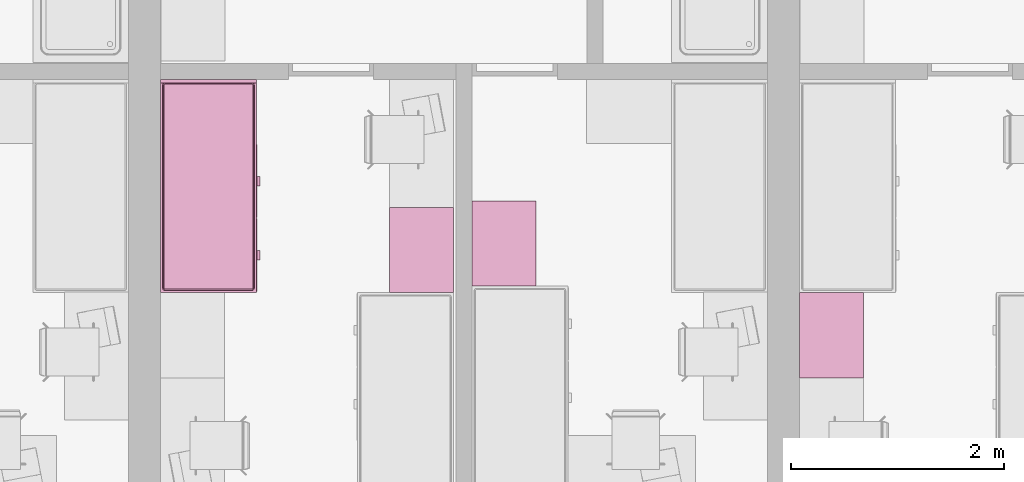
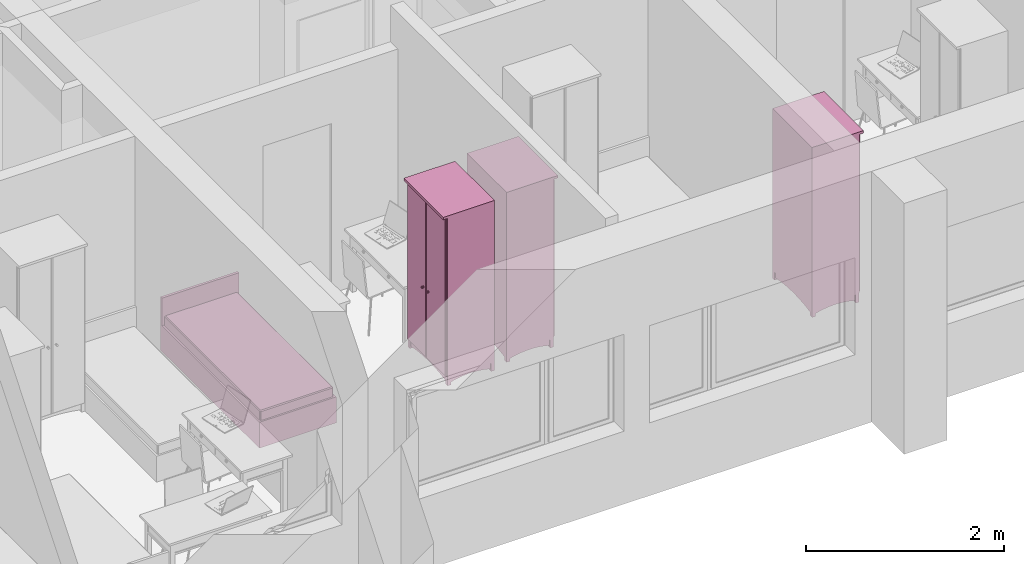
# One storey, part 106 of 172: 4 furnishings.
"""IFC2X3 building model written with IfcOpenShell, lengths in millimetres."""

from ifc_helpers import new_model, entity, si_unit, converted_unit, money_unit, direction, frame, origin_with_axes, place, context, subcontext, project, spatial, faceted_brep, source, transform, mapped, material, material_list, type_object, element, save


model = new_model("IFC2X3")

# Units and contexts
model_context = context("Model", 3, precision=1e-05, world=origin_with_axes(), true_north=direction((0.0, 1.0)))
body_context = subcontext(model_context, "Body", "Model", "MODEL_VIEW")
ifc_project = project(units=[si_unit("LENGTHUNIT", "METRE", prefix="MILLI"), si_unit("AREAUNIT", "SQUARE_METRE"), si_unit("VOLUMEUNIT", "CUBIC_METRE"), converted_unit("PLANEANGLEUNIT", "DEGREE", entity("IfcPlaneAngleMeasure", 0.0174532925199), si_unit("PLANEANGLEUNIT", "RADIAN"), dimensions=[0, 0, 0, 0, 0, 0, 0]), si_unit("SOLIDANGLEUNIT", "STERADIAN"), money_unit("USD"), converted_unit("TIMEUNIT", "Year", entity("IfcTimeMeasure", 31556926.0), si_unit("TIMEUNIT", "SECOND"), dimensions=[0, 0, 0, 0, 0, 0, 0]), si_unit("MASSUNIT", "GRAM"), si_unit("THERMODYNAMICTEMPERATUREUNIT", "DEGREE_CELSIUS"), si_unit("LUMINOUSINTENSITYUNIT", "LUMEN")], contexts=[model_context])

# Site, building, storey
site_placement = place(None, origin_with_axes())
site = spatial("IfcSite", under=ifc_project, at=site_placement, Name="Site", CompositionType="ELEMENT")
building_placement = place(site_placement, origin_with_axes())
building = spatial("IfcBuilding", under=site, at=building_placement, Name="Building", CompositionType="ELEMENT")
storey_placement = place(building_placement, frame((0.0, 0.0, 3200.0), z_axis=(0.0, 0.0, 1.0), x_axis=(1.0, 0.0, 0.0)))
storey = spatial("IfcBuildingStorey", under=building, at=storey_placement, Name="3KORRUS", CompositionType="ELEMENT", Elevation=3200.0)

# Furnishings
ifc_material = material(Name="Background")
ifc_material_list = material_list([ifc_material])
furnishing_element_type_1 = type_object("IfcFurnishingElementType", Name="Bed 19")
shared_shape_1 = source(origin_with_axes(), body_context, "Body", "Brep", [
    faceted_brep([(900.0, 1970.0, 0.0), (0.0, 1970.0, 0.0), (0.0, 2000.0, 0.0), (900.0, 2000.0, 0.0), (900.0, 1970.0, 660.0), (0.0, 1970.0, 660.0), (0.0, 2000.0, 660.0), (900.0, 2000.0, 660.0)], [[[0, 1, 2, 3]], [[1, 0, 4, 5]], [[2, 1, 5, 6]], [[3, 2, 6, 7]], [[0, 3, 7, 4]], [[5, 4, 7, 6]]]),
    faceted_brep([(900.0, 0.0, 0.0), (0.0, 0.0, 0.0), (0.0, 1970.0, 0.0), (900.0, 1970.0, 0.0), (900.0, 0.0, 320.0), (0.0, 0.0, 320.0), (0.0, 1970.0, 320.0), (900.0, 1970.0, 320.0)], [[[0, 1, 2, 3]], [[1, 0, 4, 5]], [[2, 1, 5, 6]], [[3, 2, 6, 7]], [[0, 3, 7, 4]], [[5, 4, 7, 6]]]),
    faceted_brep([(905.0, 10.0, 30.0), (900.0, 10.0, 30.0), (900.0, 695.0, 30.0), (905.0, 695.0, 30.0), (905.0, 10.0, 290.0), (900.0, 10.0, 290.0), (900.0, 695.0, 290.0), (905.0, 695.0, 290.0)], [[[0, 1, 2, 3]], [[1, 0, 4, 5]], [[2, 1, 5, 6]], [[3, 2, 6, 7]], [[0, 3, 7, 4]], [[5, 4, 7, 6]]]),
    faceted_brep([(935.0, 307.5, 150.0), (905.0, 307.5, 150.0), (905.0, 397.5, 150.0), (935.0, 397.5, 150.0), (935.0, 307.5, 170.0), (905.0, 307.5, 170.0), (905.0, 397.5, 170.0), (935.0, 397.5, 170.0)], [[[0, 1, 2, 3]], [[1, 0, 4, 5]], [[2, 1, 5, 6]], [[3, 2, 6, 7]], [[0, 3, 7, 4]], [[5, 4, 7, 6]]]),
    faceted_brep([(905.0, 705.0, 30.0), (900.0, 705.0, 30.0), (900.0, 1390.0, 30.0), (905.0, 1390.0, 30.0), (905.0, 705.0, 290.0), (900.0, 705.0, 290.0), (900.0, 1390.0, 290.0), (905.0, 1390.0, 290.0)], [[[0, 1, 2, 3]], [[1, 0, 4, 5]], [[2, 1, 5, 6]], [[3, 2, 6, 7]], [[0, 3, 7, 4]], [[5, 4, 7, 6]]]),
    faceted_brep([(935.0, 1002.5, 150.0), (905.0, 1002.5, 150.0), (905.0, 1092.5, 150.0), (935.0, 1092.5, 150.0), (935.0, 1002.5, 170.0), (905.0, 1002.5, 170.0), (905.0, 1092.5, 170.0), (935.0, 1092.5, 170.0)], [[[0, 1, 2, 3]], [[1, 0, 4, 5]], [[2, 1, 5, 6]], [[3, 2, 6, 7]], [[0, 3, 7, 4]], [[5, 4, 7, 6]]]),
    faceted_brep([(20.0, 40.0, 350.0), (20.0, 1950.0, 350.0), (21.522, 1957.654, 350.0), (25.858, 1964.142, 350.0), (32.346, 1968.478, 350.0), (40.0, 1970.0, 350.0), (860.0, 1970.0, 350.0), (867.654, 1968.478, 350.0), (874.142, 1964.142, 350.0), (878.478, 1957.654, 350.0), (880.0, 1950.0, 350.0), (880.0, 40.0, 350.0), (878.478, 32.346, 350.0), (874.142, 25.858, 350.0), (867.654, 21.522, 350.0), (860.0, 20.0, 350.0), (40.0, 20.0, 350.0), (32.346, 21.522, 350.0), (25.858, 25.858, 350.0), (21.522, 32.346, 350.0), (20.0, 40.0, 420.0), (20.0, 1950.0, 420.0), (21.522, 1957.654, 420.0), (25.858, 1964.142, 420.0), (32.346, 1968.478, 420.0), (40.0, 1970.0, 420.0), (860.0, 1970.0, 420.0), (867.654, 1968.478, 420.0), (874.142, 1964.142, 420.0), (878.478, 1957.654, 420.0), (880.0, 1950.0, 420.0), (880.0, 40.0, 420.0), (878.478, 32.346, 420.0), (874.142, 25.858, 420.0), (867.654, 21.522, 420.0), (860.0, 20.0, 420.0), (40.0, 20.0, 420.0), (32.346, 21.522, 420.0), (25.858, 25.858, 420.0), (21.522, 32.346, 420.0), (21.522, 40.15, 427.654), (21.522, 1949.85, 427.654), (22.956, 1957.06, 427.654), (26.955, 1963.045, 427.654), (32.94, 1967.044, 427.654), (40.15, 1968.478, 427.654), (859.85, 1968.478, 427.654), (867.06, 1967.044, 427.654), (873.045, 1963.045, 427.654), (877.044, 1957.06, 427.654), (878.478, 1949.85, 427.654), (878.478, 40.15, 427.654), (877.044, 32.94, 427.654), (873.045, 26.955, 427.654), (867.06, 22.956, 427.654), (859.85, 21.522, 427.654), (40.15, 21.522, 427.654), (32.94, 22.956, 427.654), (26.955, 26.955, 427.654), (22.956, 32.94, 427.654), (32.346, 41.216, 438.478), (32.346, 1948.784, 438.478), (33.152, 1952.836, 438.478), (34.759, 1955.241, 438.478), (37.164, 1956.848, 438.478), (41.216, 1957.654, 438.478), (858.784, 1957.654, 438.478), (862.836, 1956.848, 438.478), (865.241, 1955.241, 438.478), (866.848, 1952.836, 438.478), (867.654, 1948.784, 438.478), (867.654, 41.216, 438.478), (866.848, 37.164, 438.478), (865.241, 34.759, 438.478), (862.836, 33.152, 438.478), (858.784, 32.346, 438.478), (41.216, 32.346, 438.478), (37.164, 33.152, 438.478), (34.759, 34.759, 438.478), (33.152, 37.164, 438.478), (40.0, 41.97, 440.0), (40.0, 1948.03, 440.0), (40.327, 1949.673, 440.0), (40.0, 1950.0, 439.924), (41.97, 1950.0, 440.0), (858.03, 1950.0, 440.0), (859.673, 1949.673, 440.0), (860.0, 1950.0, 439.924), (860.0, 1948.03, 440.0), (860.0, 41.97, 440.0), (859.673, 40.327, 440.0), (860.0, 40.0, 439.924), (858.03, 40.0, 440.0), (41.97, 40.0, 440.0), (40.327, 40.327, 440.0), (40.0, 40.0, 439.924)], [[[0, 1, 2, 3, 4, 5, 6, 7, 8, 9, 10, 11, 12, 13, 14, 15, 16, 17, 18, 19]], [[1, 0, 20, 21]], [[2, 1, 21, 22]], [[3, 2, 22, 23]], [[4, 3, 23, 24]], [[5, 4, 24, 25]], [[6, 5, 25, 26]], [[7, 6, 26, 27]], [[8, 7, 27, 28]], [[9, 8, 28, 29]], [[10, 9, 29, 30]], [[11, 10, 30, 31]], [[12, 11, 31, 32]], [[13, 12, 32, 33]], [[14, 13, 33, 34]], [[15, 14, 34, 35]], [[16, 15, 35, 36]], [[17, 16, 36, 37]], [[18, 17, 37, 38]], [[19, 18, 38, 39]], [[0, 19, 39, 20]], [[21, 20, 40, 41]], [[22, 21, 41, 42]], [[23, 22, 42, 43]], [[24, 23, 43, 44]], [[25, 24, 44, 45]], [[26, 25, 45, 46]], [[27, 26, 46, 47]], [[28, 27, 47, 48]], [[29, 28, 48, 49]], [[30, 29, 49, 50]], [[31, 30, 50, 51]], [[32, 31, 51, 52]], [[33, 32, 52, 53]], [[34, 33, 53, 54]], [[35, 34, 54, 55]], [[36, 35, 55, 56]], [[37, 36, 56, 57]], [[38, 37, 57, 58]], [[39, 38, 58, 59]], [[20, 39, 59, 40]], [[41, 40, 60, 61]], [[42, 41, 61, 62]], [[43, 42, 62, 63]], [[44, 43, 63, 64]], [[45, 44, 64, 65]], [[46, 45, 65, 66]], [[47, 46, 66, 67]], [[48, 47, 67, 68]], [[49, 48, 68, 69]], [[50, 49, 69, 70]], [[51, 50, 70, 71]], [[52, 51, 71, 72]], [[53, 52, 72, 73]], [[54, 53, 73, 74]], [[55, 54, 74, 75]], [[56, 55, 75, 76]], [[57, 56, 76, 77]], [[58, 57, 77, 78]], [[59, 58, 78, 79]], [[40, 59, 79, 60]], [[61, 60, 80, 81]], [[62, 61, 81, 82, 83]], [[63, 62, 83]], [[64, 63, 83]], [[65, 64, 83, 82, 84]], [[66, 65, 84, 85]], [[67, 66, 85, 86, 87]], [[68, 67, 87]], [[69, 68, 87]], [[70, 69, 87, 86, 88]], [[71, 70, 88, 89]], [[72, 71, 89, 90, 91]], [[73, 72, 91]], [[74, 73, 91]], [[75, 74, 91, 90, 92]], [[76, 75, 92, 93]], [[77, 76, 93, 94, 95]], [[78, 77, 95]], [[79, 78, 95]], [[60, 79, 95, 94, 80]], [[81, 80, 94, 93, 92, 90, 89, 88, 86, 85, 84, 82]]]),
    faceted_brep([(20.0, 40.0, 350.0), (21.522, 32.346, 350.0), (25.858, 25.858, 350.0), (32.346, 21.522, 350.0), (40.0, 20.0, 350.0), (860.0, 20.0, 350.0), (867.654, 21.522, 350.0), (874.142, 25.858, 350.0), (878.478, 32.346, 350.0), (880.0, 40.0, 350.0), (880.0, 1950.0, 350.0), (878.478, 1957.654, 350.0), (874.142, 1964.142, 350.0), (867.654, 1968.478, 350.0), (860.0, 1970.0, 350.0), (40.0, 1970.0, 350.0), (32.346, 1968.478, 350.0), (25.858, 1964.142, 350.0), (21.522, 1957.654, 350.0), (20.0, 1950.0, 350.0), (20.0, 40.0, 320.0), (21.522, 32.346, 320.0), (25.858, 25.858, 320.0), (32.346, 21.522, 320.0), (40.0, 20.0, 320.0), (860.0, 20.0, 320.0), (867.654, 21.522, 320.0), (874.142, 25.858, 320.0), (878.478, 32.346, 320.0), (880.0, 40.0, 320.0), (880.0, 1950.0, 320.0), (878.478, 1957.654, 320.0), (874.142, 1964.142, 320.0), (867.654, 1968.478, 320.0), (860.0, 1970.0, 320.0), (40.0, 1970.0, 320.0), (32.346, 1968.478, 320.0), (25.858, 1964.142, 320.0), (21.522, 1957.654, 320.0), (20.0, 1950.0, 320.0)], [[[0, 1, 2, 3, 4, 5, 6, 7, 8, 9, 10, 11, 12, 13, 14, 15, 16, 17, 18, 19]], [[0, 20, 21, 1]], [[1, 21, 22, 2]], [[2, 22, 23, 3]], [[3, 23, 24, 4]], [[4, 24, 25, 5]], [[5, 25, 26, 6]], [[6, 26, 27, 7]], [[7, 27, 28, 8]], [[8, 28, 29, 9]], [[9, 29, 30, 10]], [[10, 30, 31, 11]], [[11, 31, 32, 12]], [[12, 32, 33, 13]], [[13, 33, 34, 14]], [[14, 34, 35, 15]], [[15, 35, 36, 16]], [[16, 36, 37, 17]], [[17, 37, 38, 18]], [[18, 38, 39, 19]], [[19, 39, 20, 0]], [[20, 39, 38, 37, 36, 35, 34, 33, 32, 31, 30, 29, 28, 27, 26, 25, 24, 23, 22, 21]]]),
])
furnishing_placement = place(storey_placement, frame((-29990.2967033, -17439.2398994, 0.0), z_axis=(0.0, 0.0, 1.0), x_axis=(1.0, 0.0, 0.0)))
element("IfcFurnishingElement", 1, at=furnishing_placement, inside=storey, type_object=furnishing_element_type_1, material=ifc_material_list, Name="FU - 013", context=body_context, shape_type="MappedRepresentation", body=[
    mapped(shared_shape_1, transform((0.0, 0.0, 0.0))),
])
furnishing_element_type_2 = type_object("IfcFurnishingElementType", Name="Cupboard 19")
shared_shape_2 = source(origin_with_axes(), body_context, "Body", "Brep", [
    faceted_brep([(780.0, 600.0, 120.0), (780.0, 600.0, 2050.0), (780.0, 580.0, 2050.0), (780.0, 580.0, 120.0), (20.0, 600.0, 120.0), (20.0, 600.0, 2050.0), (20.0, 580.0, 2050.0), (20.0, 580.0, 120.0)], [[[0, 1, 2, 3]], [[4, 5, 1, 0]], [[1, 5, 6, 2]], [[3, 2, 6, 7]], [[0, 3, 7, 4]], [[7, 6, 5, 4]]]),
    faceted_brep([(0.0, 50.0, 100.0), (0.0, 600.0, 100.0), (20.0, 600.0, 100.0), (20.0, 50.0, 100.0), (0.0, 50.0, 2070.0), (0.0, 600.0, 2070.0), (20.0, 600.0, 2070.0), (20.0, 50.0, 2070.0)], [[[0, 1, 2, 3]], [[0, 4, 5, 1]], [[1, 5, 6, 2]], [[2, 6, 7, 3]], [[3, 7, 4, 0]], [[7, 6, 5, 4]]]),
    faceted_brep([(780.0, 50.0, 100.0), (780.0, 600.0, 100.0), (800.0, 600.0, 100.0), (800.0, 50.0, 100.0), (780.0, 50.0, 2070.0), (780.0, 600.0, 2070.0), (800.0, 600.0, 2070.0), (800.0, 50.0, 2070.0)], [[[0, 1, 2, 3]], [[0, 4, 5, 1]], [[1, 5, 6, 2]], [[2, 6, 7, 3]], [[3, 7, 4, 0]], [[7, 6, 5, 4]]]),
    faceted_brep([(20.0, 50.0, 100.0), (20.0, 600.0, 100.0), (780.0, 600.0, 100.0), (780.0, 50.0, 100.0), (20.0, 50.0, 120.0), (20.0, 600.0, 120.0), (780.0, 600.0, 120.0), (780.0, 50.0, 120.0)], [[[0, 1, 2, 3]], [[0, 4, 5, 1]], [[1, 5, 6, 2]], [[2, 6, 7, 3]], [[3, 7, 4, 0]], [[7, 6, 5, 4]]]),
    faceted_brep([(20.0, 50.0, 2050.0), (20.0, 600.0, 2050.0), (780.0, 600.0, 2050.0), (780.0, 50.0, 2050.0), (20.0, 50.0, 2070.0), (20.0, 600.0, 2070.0), (780.0, 600.0, 2070.0), (780.0, 50.0, 2070.0)], [[[0, 1, 2, 3]], [[0, 4, 5, 1]], [[1, 5, 6, 2]], [[2, 6, 7, 3]], [[3, 7, 4, 0]], [[7, 6, 5, 4]]]),
    faceted_brep([(0.0, 600.0, 2070.0), (0.0, 0.0, 2070.0), (0.0, 0.0, 2100.0), (0.0, 600.0, 2100.0), (800.0, 600.0, 2070.0), (800.0, 0.0, 2070.0), (800.0, 0.0, 2100.0), (800.0, 600.0, 2100.0)], [[[0, 1, 2, 3]], [[0, 4, 5, 1]], [[1, 5, 6, 2]], [[3, 2, 6, 7]], [[4, 0, 3, 7]], [[5, 4, 7, 6]]]),
    faceted_brep([(760.0, 590.0, 25.0), (760.0, 570.0, 25.0), (640.962, 570.0, 45.8), (640.962, 590.0, 45.8), (760.0, 590.0, 100.0), (760.0, 570.0, 100.0), (40.0, 570.0, 100.0), (40.0, 570.0, 25.0), (159.038, 570.0, 45.8), (279.23, 570.0, 58.32), (400.0, 570.0, 62.5), (520.77, 570.0, 58.32), (520.77, 590.0, 58.32), (400.0, 590.0, 62.5), (279.23, 590.0, 58.32), (159.038, 590.0, 45.8), (40.0, 590.0, 25.0), (40.0, 590.0, 100.0)], [[[0, 1, 2, 3]], [[4, 5, 1, 0]], [[1, 5, 6, 7, 8, 9, 10, 11, 2]], [[3, 2, 11, 12]], [[0, 3, 12, 13, 14, 15, 16, 17, 4]], [[17, 6, 5, 4]], [[16, 7, 6, 17]], [[15, 8, 7, 16]], [[14, 9, 8, 15]], [[13, 10, 9, 14]], [[12, 11, 10, 13]]]),
    faceted_brep([(760.0, 80.0, 25.0), (760.0, 60.0, 25.0), (640.962, 60.0, 45.8), (640.962, 80.0, 45.8), (760.0, 80.0, 100.0), (760.0, 60.0, 100.0), (40.0, 60.0, 100.0), (40.0, 60.0, 25.0), (159.038, 60.0, 45.8), (279.23, 60.0, 58.32), (400.0, 60.0, 62.5), (520.77, 60.0, 58.32), (520.77, 80.0, 58.32), (400.0, 80.0, 62.5), (279.23, 80.0, 58.32), (159.038, 80.0, 45.8), (40.0, 80.0, 25.0), (40.0, 80.0, 100.0)], [[[0, 1, 2, 3]], [[4, 5, 1, 0]], [[1, 5, 6, 7, 8, 9, 10, 11, 2]], [[3, 2, 11, 12]], [[0, 3, 12, 13, 14, 15, 16, 17, 4]], [[17, 6, 5, 4]], [[16, 7, 6, 17]], [[15, 8, 7, 16]], [[14, 9, 8, 15]], [[13, 10, 9, 14]], [[12, 11, 10, 13]]]),
    faceted_brep([(790.0, 90.0, 25.0), (770.0, 90.0, 25.0), (770.0, 141.266, 38.072), (790.0, 141.266, 38.072), (790.0, 90.0, 100.0), (770.0, 90.0, 100.0), (770.0, 560.0, 100.0), (770.0, 560.0, 25.0), (770.0, 508.734, 38.072), (770.0, 456.752, 47.92), (770.0, 404.257, 54.508), (770.0, 351.453, 57.808), (770.0, 298.547, 57.808), (770.0, 245.743, 54.508), (770.0, 193.248, 47.92), (790.0, 193.248, 47.92), (790.0, 245.743, 54.508), (790.0, 298.547, 57.808), (790.0, 351.453, 57.808), (790.0, 404.257, 54.508), (790.0, 456.752, 47.92), (790.0, 508.734, 38.072), (790.0, 560.0, 25.0), (790.0, 560.0, 100.0)], [[[0, 1, 2, 3]], [[4, 5, 1, 0]], [[1, 5, 6, 7, 8, 9, 10, 11, 12, 13, 14, 2]], [[3, 2, 14, 15]], [[0, 3, 15, 16, 17, 18, 19, 20, 21, 22, 23, 4]], [[23, 6, 5, 4]], [[22, 7, 6, 23]], [[21, 8, 7, 22]], [[20, 9, 8, 21]], [[19, 10, 9, 20]], [[18, 11, 10, 19]], [[17, 12, 11, 18]], [[16, 13, 12, 17]], [[15, 14, 13, 16]]]),
    faceted_brep([(30.0, 90.0, 25.0), (10.0, 90.0, 25.0), (10.0, 141.266, 38.072), (30.0, 141.266, 38.072), (30.0, 90.0, 100.0), (10.0, 90.0, 100.0), (10.0, 560.0, 100.0), (10.0, 560.0, 25.0), (10.0, 508.734, 38.072), (10.0, 456.752, 47.92), (10.0, 404.257, 54.508), (10.0, 351.453, 57.808), (10.0, 298.547, 57.808), (10.0, 245.743, 54.508), (10.0, 193.248, 47.92), (30.0, 193.248, 47.92), (30.0, 245.743, 54.508), (30.0, 298.547, 57.808), (30.0, 351.453, 57.808), (30.0, 404.257, 54.508), (30.0, 456.752, 47.92), (30.0, 508.734, 38.072), (30.0, 560.0, 25.0), (30.0, 560.0, 100.0)], [[[0, 1, 2, 3]], [[4, 5, 1, 0]], [[1, 5, 6, 7, 8, 9, 10, 11, 12, 13, 14, 2]], [[3, 2, 14, 15]], [[0, 3, 15, 16, 17, 18, 19, 20, 21, 22, 23, 4]], [[23, 6, 5, 4]], [[22, 7, 6, 23]], [[21, 8, 7, 22]], [[20, 9, 8, 21]], [[19, 10, 9, 20]], [[18, 11, 10, 19]], [[17, 12, 11, 18]], [[16, 13, 12, 17]], [[15, 14, 13, 16]]]),
    faceted_brep([(760.0, 560.0, 0.0), (760.0, 560.0, 100.0), (760.0, 600.0, 100.0), (760.0, 600.0, 0.0), (800.0, 560.0, 0.0), (800.0, 560.0, 100.0), (800.0, 600.0, 100.0), (800.0, 600.0, 0.0)], [[[0, 1, 2, 3]], [[4, 5, 1, 0]], [[1, 5, 6, 2]], [[3, 2, 6, 7]], [[0, 3, 7, 4]], [[7, 6, 5, 4]]]),
    faceted_brep([(0.0, 560.0, 0.0), (0.0, 560.0, 100.0), (0.0, 600.0, 100.0), (0.0, 600.0, 0.0), (40.0, 560.0, 0.0), (40.0, 560.0, 100.0), (40.0, 600.0, 100.0), (40.0, 600.0, 0.0)], [[[0, 1, 2, 3]], [[4, 5, 1, 0]], [[1, 5, 6, 2]], [[3, 2, 6, 7]], [[0, 3, 7, 4]], [[7, 6, 5, 4]]]),
    faceted_brep([(760.0, 50.0, 0.0), (760.0, 50.0, 100.0), (760.0, 90.0, 100.0), (760.0, 90.0, 0.0), (800.0, 50.0, 0.0), (800.0, 50.0, 100.0), (800.0, 90.0, 100.0), (800.0, 90.0, 0.0)], [[[0, 1, 2, 3]], [[4, 5, 1, 0]], [[1, 5, 6, 2]], [[3, 2, 6, 7]], [[0, 3, 7, 4]], [[7, 6, 5, 4]]]),
    faceted_brep([(0.0, 50.0, 0.0), (0.0, 50.0, 100.0), (0.0, 90.0, 100.0), (0.0, 90.0, 0.0), (40.0, 50.0, 0.0), (40.0, 50.0, 100.0), (40.0, 90.0, 100.0), (40.0, 90.0, 0.0)], [[[0, 1, 2, 3]], [[4, 5, 1, 0]], [[1, 5, 6, 2]], [[3, 2, 6, 7]], [[0, 3, 7, 4]], [[7, 6, 5, 4]]]),
    faceted_brep([(780.0, 580.0, 587.5), (780.0, 580.0, 607.5), (780.0, 50.0, 607.5), (780.0, 50.0, 587.5), (20.0, 580.0, 587.5), (20.0, 580.0, 607.5), (20.0, 50.0, 607.5), (20.0, 50.0, 587.5)], [[[0, 1, 2, 3]], [[4, 5, 1, 0]], [[1, 5, 6, 2]], [[3, 2, 6, 7]], [[0, 3, 7, 4]], [[7, 6, 5, 4]]]),
    faceted_brep([(780.0, 580.0, 1075.0), (780.0, 580.0, 1095.0), (780.0, 50.0, 1095.0), (780.0, 50.0, 1075.0), (20.0, 580.0, 1075.0), (20.0, 580.0, 1095.0), (20.0, 50.0, 1095.0), (20.0, 50.0, 1075.0)], [[[0, 1, 2, 3]], [[4, 5, 1, 0]], [[1, 5, 6, 2]], [[3, 2, 6, 7]], [[0, 3, 7, 4]], [[7, 6, 5, 4]]]),
    faceted_brep([(780.0, 580.0, 1562.5), (780.0, 580.0, 1582.5), (780.0, 50.0, 1582.5), (780.0, 50.0, 1562.5), (20.0, 580.0, 1562.5), (20.0, 580.0, 1582.5), (20.0, 50.0, 1582.5), (20.0, 50.0, 1562.5)], [[[0, 1, 2, 3]], [[4, 5, 1, 0]], [[1, 5, 6, 2]], [[3, 2, 6, 7]], [[0, 3, 7, 4]], [[7, 6, 5, 4]]]),
    faceted_brep([(789.5, 50.0, 110.5), (400.5, 50.0, 110.5), (400.5, 50.0, 2059.5), (789.5, 50.0, 2059.5), (789.5, 40.0, 110.5), (400.5, 40.0, 110.5), (400.5, 40.0, 2059.5), (789.5, 40.0, 2059.5), (779.5, 30.0, 120.5), (410.5, 30.0, 120.5), (410.5, 30.0, 2049.5), (779.5, 30.0, 2049.5)], [[[0, 1, 2, 3]], [[0, 4, 5, 1]], [[1, 5, 6, 2]], [[2, 6, 7, 3]], [[3, 7, 4, 0]], [[4, 8, 9, 5]], [[5, 9, 10, 6]], [[6, 10, 11, 7]], [[7, 11, 8, 4]], [[10, 9, 8, 11]]]),
    faceted_brep([(399.5, 50.0, 110.5), (10.5, 50.0, 110.5), (10.5, 50.0, 2059.5), (399.5, 50.0, 2059.5), (399.5, 40.0, 110.5), (10.5, 40.0, 110.5), (10.5, 40.0, 2059.5), (399.5, 40.0, 2059.5), (389.5, 30.0, 120.5), (20.5, 30.0, 120.5), (20.5, 30.0, 2049.5), (389.5, 30.0, 2049.5)], [[[0, 1, 2, 3]], [[0, 4, 5, 1]], [[1, 5, 6, 2]], [[2, 6, 7, 3]], [[3, 7, 4, 0]], [[4, 8, 9, 5]], [[5, 9, 10, 6]], [[6, 10, 11, 7]], [[7, 11, 8, 4]], [[10, 9, 8, 11]]]),
    faceted_brep([(339.608, 30.0, 954.0), (338.0, 30.0, 960.0), (339.608, 30.0, 966.0), (344.0, 30.0, 970.392), (350.0, 30.0, 972.0), (356.0, 30.0, 970.392), (360.392, 30.0, 966.0), (362.0, 30.0, 960.0), (360.392, 30.0, 954.0), (356.0, 30.0, 949.608), (350.0, 30.0, 948.0), (344.0, 30.0, 949.608), (339.608, 5.0, 954.0), (338.0, 5.0, 960.0), (339.608, 5.0, 966.0), (344.0, 5.0, 970.392), (350.0, 5.0, 972.0), (356.0, 5.0, 970.392), (360.392, 5.0, 966.0), (362.0, 5.0, 960.0), (360.392, 5.0, 954.0), (356.0, 5.0, 949.608), (350.0, 5.0, 948.0), (344.0, 5.0, 949.608)], [[[0, 1, 2, 3, 4, 5, 6, 7, 8, 9, 10, 11]], [[0, 12, 13, 1]], [[1, 13, 14, 2]], [[2, 14, 15, 3]], [[3, 15, 16, 4]], [[4, 16, 17, 5]], [[5, 17, 18, 6]], [[6, 18, 19, 7]], [[7, 19, 20, 8]], [[8, 20, 21, 9]], [[9, 21, 22, 10]], [[10, 22, 23, 11]], [[11, 23, 12, 0]], [[12, 23, 22, 21, 20, 19, 18, 17, 16, 15, 14, 13]]]),
    faceted_brep([(460.392, 30.0, 954.0), (456.0, 30.0, 949.608), (450.0, 30.0, 948.0), (444.0, 30.0, 949.608), (439.608, 30.0, 954.0), (438.0, 30.0, 960.0), (439.608, 30.0, 966.0), (444.0, 30.0, 970.392), (450.0, 30.0, 972.0), (456.0, 30.0, 970.392), (460.392, 30.0, 966.0), (462.0, 30.0, 960.0), (460.392, 5.0, 954.0), (456.0, 5.0, 949.608), (450.0, 5.0, 948.0), (444.0, 5.0, 949.608), (439.608, 5.0, 954.0), (438.0, 5.0, 960.0), (439.608, 5.0, 966.0), (444.0, 5.0, 970.392), (450.0, 5.0, 972.0), (456.0, 5.0, 970.392), (460.392, 5.0, 966.0), (462.0, 5.0, 960.0)], [[[0, 1, 2, 3, 4, 5, 6, 7, 8, 9, 10, 11]], [[1, 0, 12, 13]], [[2, 1, 13, 14]], [[3, 2, 14, 15]], [[4, 3, 15, 16]], [[5, 4, 16, 17]], [[6, 5, 17, 18]], [[7, 6, 18, 19]], [[8, 7, 19, 20]], [[9, 8, 20, 21]], [[10, 9, 21, 22]], [[11, 10, 22, 23]], [[0, 11, 23, 12]], [[12, 23, 22, 21, 20, 19, 18, 17, 16, 15, 14, 13]]]),
])
for number, where, z_axis, x_axis, name in (
    (2, (-26465.2967033, -17379.2398994, 0.0), (0.0, 0.0, 1.0), (0.0, 1.0, 0.0), "FU - 014"),
    (3, (-27840.2967033, -16639.2398994, 0.0), (0.0, 0.0, 1.0), (0.0, -1.0, 0.0), "FU - 014"),
    (4, (-23390.2967033, -18239.2398994, 0.0), (0.0, 0.0, 1.0), (0.0, 1.0, 0.0), "FU - 014"),
):
    element("IfcFurnishingElement", number, at=place(storey_placement, frame(where, z_axis=z_axis, x_axis=x_axis)), inside=storey, type_object=furnishing_element_type_2, material=ifc_material_list, Name=name, context=body_context, shape_type="MappedRepresentation", body=[
        mapped(shared_shape_2, transform((0.0, 0.0, 0.0))),
    ])

save(model, "model.ifc")
